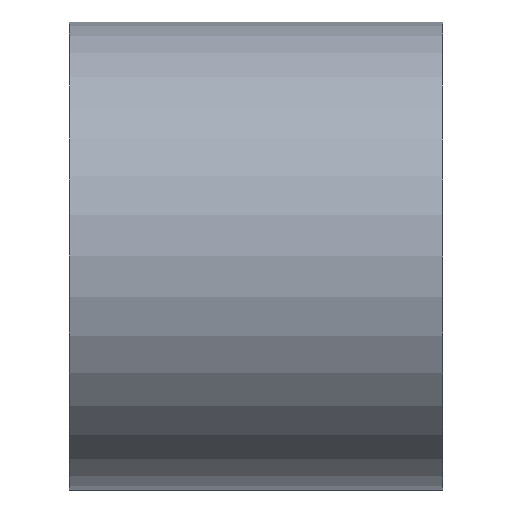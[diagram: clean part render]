
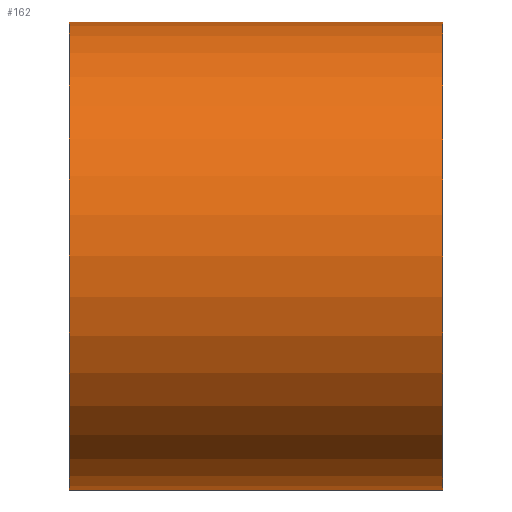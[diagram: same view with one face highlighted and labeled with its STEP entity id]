
A CAD part, front view. The second image highlights one B-rep face of the part: STEP entity #162.
In plain terms, the highlighted cylindrical face has radius 395 mm (diameter 790 mm), a partial arc.
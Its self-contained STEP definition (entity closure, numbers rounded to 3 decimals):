
#162=ADVANCED_FACE('',(#326),#327,.T.);
#326=FACE_OUTER_BOUND('',#509,.T.);
#327=CYLINDRICAL_SURFACE('',#510,395.0);
#509=EDGE_LOOP('',(#927,#928,#929,#930));
#510=AXIS2_PLACEMENT_3D('',#931,#932,#933);
#927=ORIENTED_EDGE('',*,*,#999,.T.);
#928=ORIENTED_EDGE('',*,*,#1173,.F.);
#929=ORIENTED_EDGE('',*,*,#1001,.T.);
#930=ORIENTED_EDGE('',*,*,#1174,.F.);
#931=CARTESIAN_POINT('',(0.0,0.0,0.0));
#932=DIRECTION('',(1.0,0.0,0.0));
#933=DIRECTION('',(0.0,0.0,-1.0));
#999=EDGE_CURVE('',#1178,#1179,#1180,.T.);
#1001=EDGE_CURVE('',#1183,#1181,#1184,.T.);
#1173=EDGE_CURVE('',#1183,#1179,#1439,.T.);
#1174=EDGE_CURVE('',#1178,#1181,#1440,.T.);
#1178=VERTEX_POINT('',#1444);
#1179=VERTEX_POINT('',#1445);
#1180=LINE('',#1446,#1447);
#1181=VERTEX_POINT('',#1448);
#1183=VERTEX_POINT('',#1450);
#1184=LINE('',#1451,#1452);
#1439=CIRCLE('',#1759,395.0);
#1440=CIRCLE('',#1760,395.0);
#1444=CARTESIAN_POINT('',(-315.0,0.0,-395.0));
#1445=CARTESIAN_POINT('',(315.0,0.0,-395.0));
#1446=CARTESIAN_POINT('',(0.0,0.,-395.0));
#1447=VECTOR('',#1763,1.0);
#1448=CARTESIAN_POINT('',(-315.0,0.,395.0));
#1450=CARTESIAN_POINT('',(315.0,0.,395.0));
#1451=CARTESIAN_POINT('',(0.0,0.,395.0));
#1452=VECTOR('',#1767,1.0);
#1759=AXIS2_PLACEMENT_3D('',#2042,#2043,#2044);
#1760=AXIS2_PLACEMENT_3D('',#2045,#2046,#2047);
#1763=DIRECTION('',(1.0,0.0,0.0));
#1767=DIRECTION('',(-1.0,-0.0,-0.0));
#2042=CARTESIAN_POINT('',(315.0,0.0,0.0));
#2043=DIRECTION('',(1.0,0.0,0.0));
#2044=DIRECTION('',(0.0,0.0,-1.0));
#2045=CARTESIAN_POINT('',(-315.0,0.0,0.0));
#2046=DIRECTION('',(-1.0,0.0,0.0));
#2047=DIRECTION('',(0.0,0.0,-1.0));
